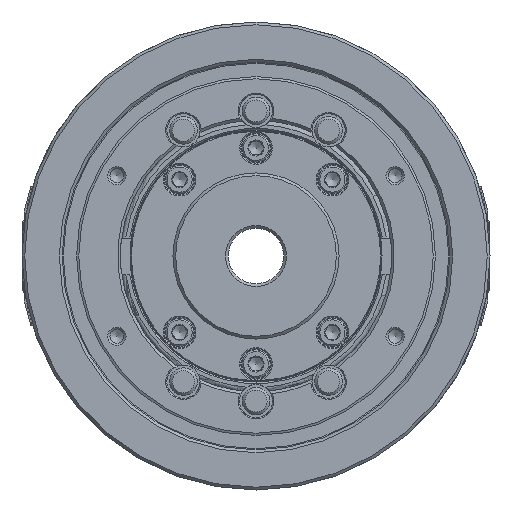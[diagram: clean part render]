
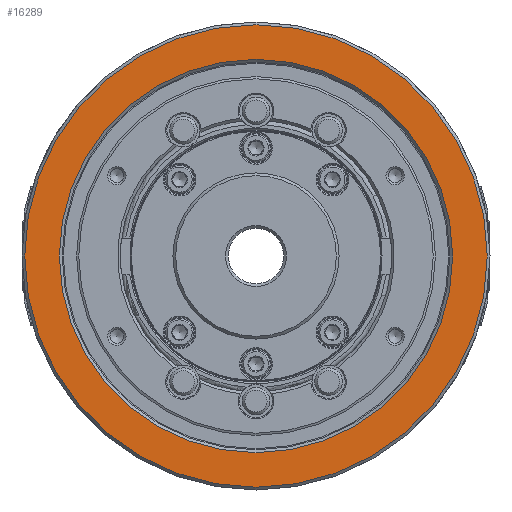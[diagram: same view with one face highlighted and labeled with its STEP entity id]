
A CAD part, left-side view. The second image highlights one B-rep face of the part: STEP entity #16289.
In plain terms, the highlighted planar face has unit normal (-1, 0, 0).
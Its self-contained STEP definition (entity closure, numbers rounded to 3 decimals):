
#7659 = EDGE_CURVE ( 'NONE', #32277, #32277, #63161, .T. ) ;
#9221 = DIRECTION ( 'NONE',  ( 1., 0., 0. ) ) ;
#9650 = AXIS2_PLACEMENT_3D ( 'NONE', #73538, #9221, #10344 ) ;
#10344 = DIRECTION ( 'NONE',  ( 0., 0., 1. ) ) ;
#10521 = ORIENTED_EDGE ( 'NONE', *, *, #7659, .F. ) ;
#16052 = DIRECTION ( 'NONE',  ( 0., 0., 1. ) ) ;
#16289 = ADVANCED_FACE ( 'NONE', ( #61404, #61775 ), #62522, .F. ) ;
#21420 = DIRECTION ( 'NONE',  ( 1., 0., 0. ) ) ;
#32277 = VERTEX_POINT ( 'NONE', #60843 ) ;
#32319 = CARTESIAN_POINT ( 'NONE',  ( -81., 0., 0. ) ) ;
#33904 = AXIS2_PLACEMENT_3D ( 'NONE', #68223, #21420, #16052 ) ;
#33986 = AXIS2_PLACEMENT_3D ( 'NONE', #32319, #71898, #48714 ) ;
#34290 = EDGE_CURVE ( 'NONE', #42775, #42775, #66731, .T. ) ;
#42775 = VERTEX_POINT ( 'NONE', #54590 ) ;
#47578 = EDGE_LOOP ( 'NONE', ( #73149 ) ) ;
#48714 = DIRECTION ( 'NONE',  ( 0., 0., 1. ) ) ;
#54590 = CARTESIAN_POINT ( 'NONE',  ( -81., 0., 71. ) ) ;
#56333 = EDGE_LOOP ( 'NONE', ( #10521 ) ) ;
#60843 = CARTESIAN_POINT ( 'NONE',  ( -81., 0., 83.5 ) ) ;
#61404 = FACE_OUTER_BOUND ( 'NONE', #56333, .T. ) ;
#61775 = FACE_BOUND ( 'NONE', #47578, .T. ) ;
#62522 = PLANE ( 'NONE',  #9650 ) ;
#63161 = CIRCLE ( 'NONE', #33986, 83.5 ) ;
#66731 = CIRCLE ( 'NONE', #33904, 71. ) ;
#68223 = CARTESIAN_POINT ( 'NONE',  ( -81., 0., 0. ) ) ;
#71898 = DIRECTION ( 'NONE',  ( 1., 0., 0. ) ) ;
#73149 = ORIENTED_EDGE ( 'NONE', *, *, #34290, .T. ) ;
#73538 = CARTESIAN_POINT ( 'NONE',  ( -81., 71., 0. ) ) ;
